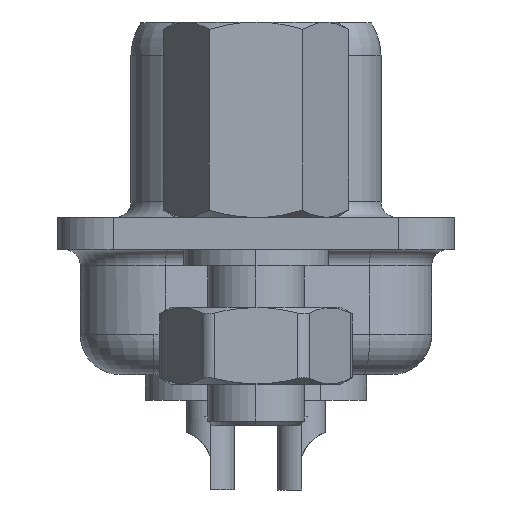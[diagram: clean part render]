
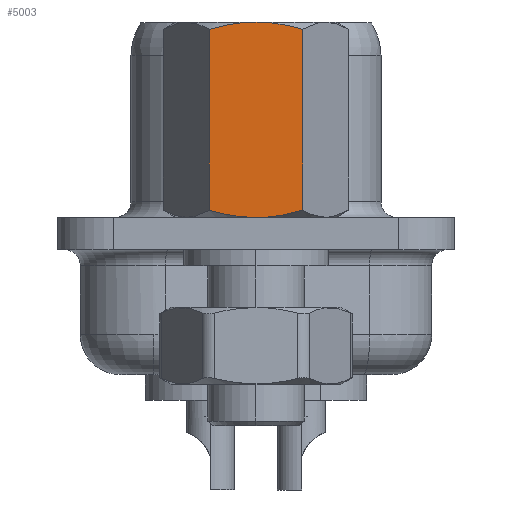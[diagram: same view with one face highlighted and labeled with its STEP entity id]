
A CAD part, left-side view. The second image highlights one B-rep face of the part: STEP entity #5003.
In plain terms, the highlighted planar face has unit normal (-1, 0, 0).
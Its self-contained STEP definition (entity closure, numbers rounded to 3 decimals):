
#90 = EDGE_CURVE ( 'NONE', #2443, #7640, #13719, .T. ) ;
#98 = EDGE_CURVE ( 'NONE', #18763, #3717, #6692, .T. ) ;
#177 = EDGE_CURVE ( 'NONE', #3717, #2443, #5134, .T. ) ;
#763 = CARTESIAN_POINT ( 'NONE',  ( -26.02, -0.491, 6.579 ) ) ;
#923 = CARTESIAN_POINT ( 'NONE',  ( -26.02, 0.496, 0.522 ) ) ;
#1102 = CARTESIAN_POINT ( 'NONE',  ( -26.02, -1.457, 0.727 ) ) ;
#1121 = DIRECTION ( 'NONE',  ( 1., 0., 0. ) ) ;
#1630 = ORIENTED_EDGE ( 'NONE', *, *, #13538, .F. ) ;
#1744 = ORIENTED_EDGE ( 'NONE', *, *, #18315, .T. ) ;
#2080 = CARTESIAN_POINT ( 'NONE',  ( -26.02, 1.457, 6.373 ) ) ;
#2443 = VERTEX_POINT ( 'NONE', #9161 ) ;
#2561 = CARTESIAN_POINT ( 'NONE',  ( -26.02, -1.22, 0.658 ) ) ;
#2878 = CARTESIAN_POINT ( 'NONE',  ( -26.02, -0.491, 0.521 ) ) ;
#3554 = CARTESIAN_POINT ( 'NONE',  ( -26.02, 0., 6.6 ) ) ;
#3717 = VERTEX_POINT ( 'NONE', #12892 ) ;
#4095 = PLANE ( 'NONE',  #14192 ) ;
#4164 = DIRECTION ( 'NONE',  ( 0., 0., -1. ) ) ;
#4533 = B_SPLINE_CURVE_WITH_KNOTS ( 'NONE', 3,
 ( #2080, #15120, #5032, #12225, #7871, #3554 ),
 .UNSPECIFIED., .F., .F.,
 ( 4, 2, 4 ),
 ( 0.001, 0.002, 0.002 ),
 .UNSPECIFIED. ) ;
#5003 = ADVANCED_FACE ( 'NONE', ( #16372 ), #4095, .F. ) ;
#5032 = CARTESIAN_POINT ( 'NONE',  ( -26.02, 0.983, 6.498 ) ) ;
#5134 = B_SPLINE_CURVE_WITH_KNOTS ( 'NONE', 3,
 ( #1102, #2561, #7008, #2878, #18760, #15843 ),
 .UNSPECIFIED., .F., .F.,
 ( 4, 2, 4 ),
 ( 0.003, 0.003, 0.004 ),
 .UNSPECIFIED. ) ;
#5839 = DIRECTION ( 'NONE',  ( 0., 0., -1. ) ) ;
#6460 = CARTESIAN_POINT ( 'NONE',  ( -26.02, -0.977, 6.5 ) ) ;
#6685 = CARTESIAN_POINT ( 'NONE',  ( -26.02, 0., 0.5 ) ) ;
#6692 = LINE ( 'NONE', #15337, #15494 ) ;
#7008 = CARTESIAN_POINT ( 'NONE',  ( -26.02, -0.977, 0.6 ) ) ;
#7546 = CARTESIAN_POINT ( 'NONE',  ( -26.02, 1.457, 6.373 ) ) ;
#7640 = VERTEX_POINT ( 'NONE', #17443 ) ;
#7764 = VECTOR ( 'NONE', #5839, 1000. ) ;
#7871 = CARTESIAN_POINT ( 'NONE',  ( -26.02, 0.246, 6.6 ) ) ;
#8458 = CARTESIAN_POINT ( 'NONE',  ( -26.02, 0.983, 0.602 ) ) ;
#8475 = CARTESIAN_POINT ( 'NONE',  ( -26.02, 1.457, 6.6 ) ) ;
#8522 = CARTESIAN_POINT ( 'NONE',  ( -26.02, 1.457, 0.727 ) ) ;
#8665 = LINE ( 'NONE', #13113, #7764 ) ;
#9161 = CARTESIAN_POINT ( 'NONE',  ( -26.02, 0., 0.5 ) ) ;
#9436 = CARTESIAN_POINT ( 'NONE',  ( -26.02, -1.22, 6.442 ) ) ;
#9854 = DIRECTION ( 'NONE',  ( 0., 0., -1. ) ) ;
#10350 = ORIENTED_EDGE ( 'NONE', *, *, #98, .F. ) ;
#10926 = ORIENTED_EDGE ( 'NONE', *, *, #177, .F. ) ;
#10994 = VERTEX_POINT ( 'NONE', #17176 ) ;
#12225 = CARTESIAN_POINT ( 'NONE',  ( -26.02, 0.496, 6.578 ) ) ;
#12349 = ORIENTED_EDGE ( 'NONE', *, *, #90, .F. ) ;
#12523 = EDGE_CURVE ( 'NONE', #10994, #18763, #14767, .T. ) ;
#12892 = CARTESIAN_POINT ( 'NONE',  ( -26.02, -1.457, 0.727 ) ) ;
#13113 = CARTESIAN_POINT ( 'NONE',  ( -26.02, 1.457, 6.6 ) ) ;
#13538 = EDGE_CURVE ( 'NONE', #18450, #10994, #4533, .T. ) ;
#13719 = B_SPLINE_CURVE_WITH_KNOTS ( 'NONE', 3,
 ( #6685, #15456, #923, #8458, #17118, #8522 ),
 .UNSPECIFIED., .F., .F.,
 ( 4, 2, 4 ),
 ( 0.004, 0.005, 0.006 ),
 .UNSPECIFIED. ) ;
#13843 = CARTESIAN_POINT ( 'NONE',  ( -26.02, -0.246, 6.6 ) ) ;
#14192 = AXIS2_PLACEMENT_3D ( 'NONE', #8475, #1121, #4164 ) ;
#14767 = B_SPLINE_CURVE_WITH_KNOTS ( 'NONE', 3,
 ( #15358, #13843, #763, #6460, #9436, #16561 ),
 .UNSPECIFIED., .F., .F.,
 ( 4, 2, 4 ),
 ( 0.002, 0.003, 0.004 ),
 .UNSPECIFIED. ) ;
#15120 = CARTESIAN_POINT ( 'NONE',  ( -26.02, 1.221, 6.441 ) ) ;
#15337 = CARTESIAN_POINT ( 'NONE',  ( -26.02, -1.457, 6.6 ) ) ;
#15358 = CARTESIAN_POINT ( 'NONE',  ( -26.02, 0., 6.6 ) ) ;
#15456 = CARTESIAN_POINT ( 'NONE',  ( -26.02, 0.246, 0.5 ) ) ;
#15494 = VECTOR ( 'NONE', #9854, 1000. ) ;
#15839 = EDGE_LOOP ( 'NONE', ( #10926, #10350, #16439, #1630, #1744, #12349 ) ) ;
#15843 = CARTESIAN_POINT ( 'NONE',  ( -26.02, 0., 0.5 ) ) ;
#16372 = FACE_OUTER_BOUND ( 'NONE', #15839, .T. ) ;
#16439 = ORIENTED_EDGE ( 'NONE', *, *, #12523, .F. ) ;
#16561 = CARTESIAN_POINT ( 'NONE',  ( -26.02, -1.457, 6.373 ) ) ;
#17118 = CARTESIAN_POINT ( 'NONE',  ( -26.02, 1.221, 0.659 ) ) ;
#17176 = CARTESIAN_POINT ( 'NONE',  ( -26.02, 0., 6.6 ) ) ;
#17443 = CARTESIAN_POINT ( 'NONE',  ( -26.02, 1.457, 0.727 ) ) ;
#18315 = EDGE_CURVE ( 'NONE', #18450, #7640, #8665, .T. ) ;
#18450 = VERTEX_POINT ( 'NONE', #7546 ) ;
#18529 = CARTESIAN_POINT ( 'NONE',  ( -26.02, -1.457, 6.373 ) ) ;
#18760 = CARTESIAN_POINT ( 'NONE',  ( -26.02, -0.246, 0.5 ) ) ;
#18763 = VERTEX_POINT ( 'NONE', #18529 ) ;
